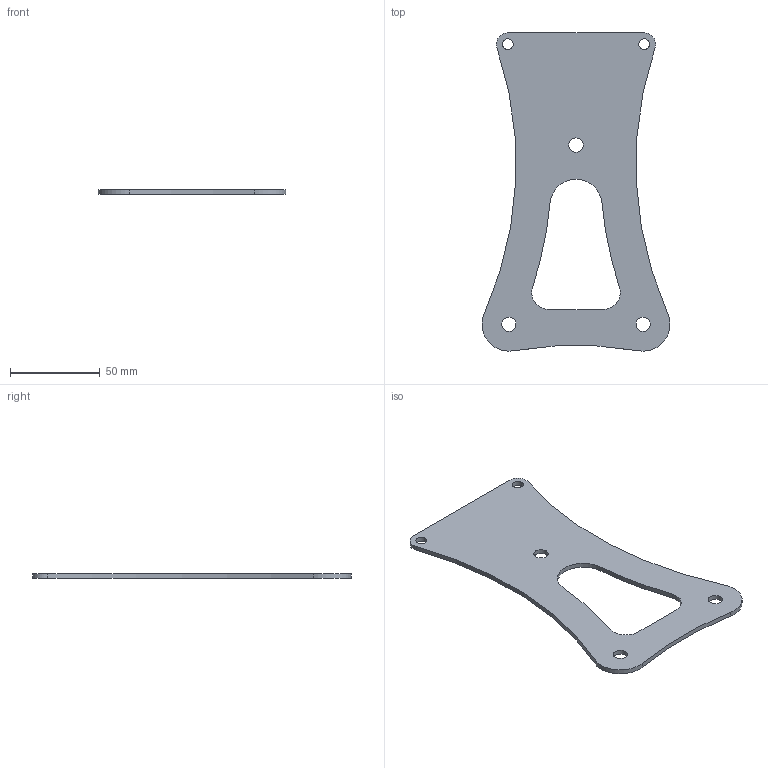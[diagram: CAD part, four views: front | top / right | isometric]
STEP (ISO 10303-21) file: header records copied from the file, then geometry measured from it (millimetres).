
FILE_DESCRIPTION(/* description */ (''),/* implementation_level */ '2;1');
FILE_NAME(/* name */ 'CSA Rack Seat Mount.step',/* time_stamp */ '2024-07-04T21:51:37-07:00',/* author */ (''),/* organization */ (''),/* preprocessor_version */ 'ST-DEVELOPER v20',/* originating_system */ 'Autodesk Translation Framework v12.20.1.177',/* authorisation */ '');
FILE_SCHEMA (('AUTOMOTIVE_DESIGN { 1 0 10303 214 3 1 1 }'));
Length unit declared in the file: inch
Products named in the file (1): Seat Mount
Bounding box: 104.91 x 177.7 x 2.64 mm (x, y, z)
Volume: 29598 mm3; surface area: 24675.2 mm2
Topology: 1 solids, 1 shells, 21 faces, 57 edges, 38 vertices
Faces by surface type: cylinder 17, plane 4
Full cylindrical faces by diameter (mm): 6 x2, 8 x3
Entity records: 744 total; most frequent: DIRECTION 135, CARTESIAN_POINT 117, ORIENTED_EDGE 114, EDGE_CURVE 57, AXIS2_PLACEMENT_3D 56, VERTEX_POINT 38, CIRCLE 34, EDGE_LOOP 33
